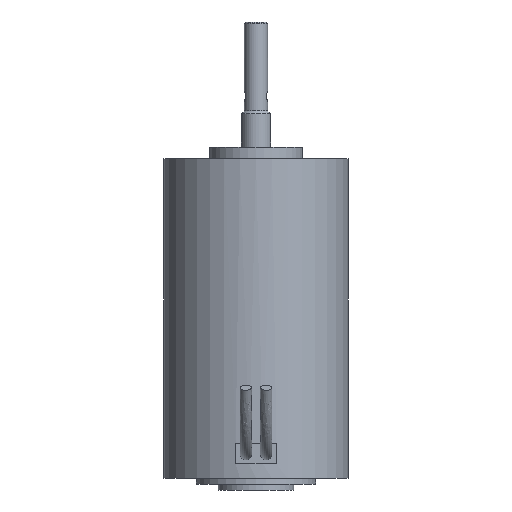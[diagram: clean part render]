
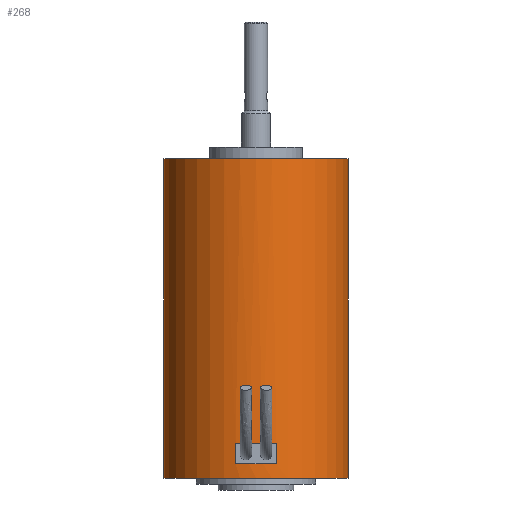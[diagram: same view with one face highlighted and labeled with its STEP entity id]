
A CAD part, front view. The second image highlights one B-rep face of the part: STEP entity #268.
In plain terms, the highlighted cylindrical face has radius 31.75 mm (diameter 63.5 mm), a partial arc.
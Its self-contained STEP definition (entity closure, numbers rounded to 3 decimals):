
#268=ADVANCED_FACE('',(#518,#519),#520,.T.);
#518=FACE_OUTER_BOUND('',#2130,.T.);
#519=FACE_BOUND('',#2131,.T.);
#520=CYLINDRICAL_SURFACE('',#2132,31.75);
#2130=EDGE_LOOP('',(#2658,#2659,#2660,#2661));
#2131=EDGE_LOOP('',(#2662,#2663,#2664,#2665));
#2132=AXIS2_PLACEMENT_3D('',#2666,#2667,#2668);
#2658=ORIENTED_EDGE('',*,*,#2823,.T.);
#2659=ORIENTED_EDGE('',*,*,#2885,.T.);
#2660=ORIENTED_EDGE('',*,*,#2824,.T.);
#2661=ORIENTED_EDGE('',*,*,#2688,.T.);
#2662=ORIENTED_EDGE('',*,*,#2855,.F.);
#2663=ORIENTED_EDGE('',*,*,#2900,.F.);
#2664=ORIENTED_EDGE('',*,*,#2916,.F.);
#2665=ORIENTED_EDGE('',*,*,#2891,.F.);
#2666=CARTESIAN_POINT('',(0.0,0.0,0.0));
#2667=DIRECTION('',(0.0,0.0,1.0));
#2668=DIRECTION('',(1.0,0.0,0.0));
#2688=EDGE_CURVE('',#2926,#2925,#2928,.T.);
#2823=EDGE_CURVE('',#2925,#3145,#3146,.T.);
#2824=EDGE_CURVE('',#3147,#2926,#3148,.T.);
#2855=EDGE_CURVE('',#3191,#3192,#3193,.T.);
#2885=EDGE_CURVE('',#3145,#3147,#3235,.T.);
#2891=EDGE_CURVE('',#3192,#3241,#3242,.T.);
#2900=EDGE_CURVE('',#3251,#3191,#3252,.T.);
#2916=EDGE_CURVE('',#3241,#3251,#3272,.T.);
#2925=VERTEX_POINT('',#3285);
#2926=VERTEX_POINT('',#3286);
#2928=CIRCLE('',#3288,31.75);
#3145=VERTEX_POINT('',#3739);
#3146=LINE('',#3740,#3741);
#3147=VERTEX_POINT('',#3742);
#3148=LINE('',#3743,#3744);
#3191=VERTEX_POINT('',#3797);
#3192=VERTEX_POINT('',#3798);
#3193=CIRCLE('',#3799,31.75);
#3235=CIRCLE('',#3851,31.75);
#3241=VERTEX_POINT('',#3857);
#3242=LINE('',#3858,#3859);
#3251=VERTEX_POINT('',#3869);
#3252=LINE('',#3870,#3871);
#3272=CIRCLE('',#3896,31.75);
#3285=CARTESIAN_POINT('',(31.75,0.0,0.0));
#3286=CARTESIAN_POINT('',(-31.75,0.,0.0));
#3288=AXIS2_PLACEMENT_3D('',#3913,#3914,#3915);
#3739=CARTESIAN_POINT('',(31.75,0.0,110.0));
#3740=CARTESIAN_POINT('',(31.75,0.,0.0));
#3741=VECTOR('',#4126,1.0);
#3742=CARTESIAN_POINT('',(-31.75,0.,110.0));
#3743=CARTESIAN_POINT('',(-31.75,0.,0.0));
#3744=VECTOR('',#4127,1.0);
#3797=CARTESIAN_POINT('',(7.0,-30.969,12.0));
#3798=CARTESIAN_POINT('',(-7.0,-30.969,12.0));
#3799=AXIS2_PLACEMENT_3D('',#4168,#4169,#4170);
#3851=AXIS2_PLACEMENT_3D('',#4208,#4209,#4210);
#3857=CARTESIAN_POINT('',(-7.0,-30.969,5.0));
#3858=CARTESIAN_POINT('',(-7.0,-30.969,8.5));
#3859=VECTOR('',#4217,1.0);
#3869=CARTESIAN_POINT('',(7.0,-30.969,5.0));
#3870=CARTESIAN_POINT('',(7.0,-30.969,8.5));
#3871=VECTOR('',#4225,1.0);
#3896=AXIS2_PLACEMENT_3D('',#4237,#4238,#4239);
#3913=CARTESIAN_POINT('',(0.0,0.0,0.0));
#3914=DIRECTION('',(0.0,0.0,1.0));
#3915=DIRECTION('',(1.0,0.0,0.0));
#4126=DIRECTION('',(0.0,0.0,1.0));
#4127=DIRECTION('',(-0.0,-0.0,-1.0));
#4168=CARTESIAN_POINT('',(0.0,0.0,12.0));
#4169=DIRECTION('',(0.,0.,-1.0));
#4170=DIRECTION('',(1.0,0.,0.));
#4208=CARTESIAN_POINT('',(0.0,0.0,110.0));
#4209=DIRECTION('',(0.0,0.0,-1.0));
#4210=DIRECTION('',(1.0,0.0,0.0));
#4217=DIRECTION('',(0.0,0.0,-1.0));
#4225=DIRECTION('',(0.0,0.0,1.0));
#4237=CARTESIAN_POINT('',(0.0,0.0,5.0));
#4238=DIRECTION('',(-0.0,0.,1.0));
#4239=DIRECTION('',(1.0,0.0,0.0));
